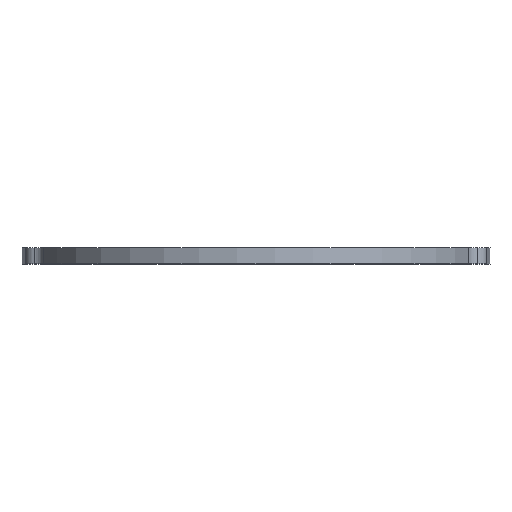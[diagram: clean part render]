
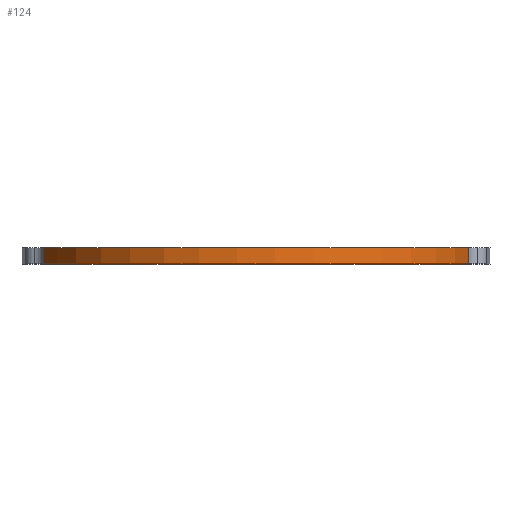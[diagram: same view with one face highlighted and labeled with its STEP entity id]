
A CAD part, top view. The second image highlights one B-rep face of the part: STEP entity #124.
In plain terms, the highlighted cylindrical face has radius 82.55 mm (diameter 165.1 mm), a partial arc.
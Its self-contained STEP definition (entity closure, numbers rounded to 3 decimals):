
#57 = CARTESIAN_POINT ( 'NONE',  ( 79.416, 6., 22.531 ) ) ;
#77 = CYLINDRICAL_SURFACE ( 'NONE', #1698, 82.55 ) ;
#78 = DIRECTION ( 'NONE',  ( 0., 1., 0. ) ) ;
#124 = ADVANCED_FACE ( 'NONE', ( #319 ), #77, .T. ) ;
#143 = DIRECTION ( 'NONE',  ( 0., 0., -1. ) ) ;
#238 = AXIS2_PLACEMENT_3D ( 'NONE', #669, #2186, #143 ) ;
#298 = CARTESIAN_POINT ( 'NONE',  ( 0., 6., 0. ) ) ;
#319 = FACE_OUTER_BOUND ( 'NONE', #1580, .T. ) ;
#357 = CARTESIAN_POINT ( 'NONE',  ( 79.416, 6., 22.531 ) ) ;
#361 = EDGE_CURVE ( 'NONE', #1733, #2290, #1306, .T. ) ;
#383 = DIRECTION ( 'NONE',  ( 0., 0., -1. ) ) ;
#394 = DIRECTION ( 'NONE',  ( 0., 0., -1. ) ) ;
#443 = CARTESIAN_POINT ( 'NONE',  ( -79.416, 0., 22.531 ) ) ;
#501 = EDGE_CURVE ( 'NONE', #727, #1733, #1984, .T. ) ;
#592 = CARTESIAN_POINT ( 'NONE',  ( -79.416, 6., 22.531 ) ) ;
#613 = LINE ( 'NONE', #592, #1439 ) ;
#650 = AXIS2_PLACEMENT_3D ( 'NONE', #298, #78, #383 ) ;
#669 = CARTESIAN_POINT ( 'NONE',  ( 0., 0., 0. ) ) ;
#672 = ORIENTED_EDGE ( 'NONE', *, *, #361, .T. ) ;
#727 = VERTEX_POINT ( 'NONE', #443 ) ;
#911 = CIRCLE ( 'NONE', #650, 82.55 ) ;
#964 = DIRECTION ( 'NONE',  ( 0., 1., 0. ) ) ;
#980 = DIRECTION ( 'NONE',  ( 0., -1., 0. ) ) ;
#1171 = ORIENTED_EDGE ( 'NONE', *, *, #1685, .F. ) ;
#1245 = VECTOR ( 'NONE', #964, 1000. ) ;
#1291 = DIRECTION ( 'NONE',  ( 0., -1., 0. ) ) ;
#1306 = LINE ( 'NONE', #57, #1245 ) ;
#1439 = VECTOR ( 'NONE', #980, 1000. ) ;
#1473 = CARTESIAN_POINT ( 'NONE',  ( 0., 6., 0. ) ) ;
#1580 = EDGE_LOOP ( 'NONE', ( #2279, #672, #1171, #1720 ) ) ;
#1685 = EDGE_CURVE ( 'NONE', #1777, #2290, #911, .T. ) ;
#1698 = AXIS2_PLACEMENT_3D ( 'NONE', #1473, #1291, #394 ) ;
#1720 = ORIENTED_EDGE ( 'NONE', *, *, #1841, .T. ) ;
#1733 = VERTEX_POINT ( 'NONE', #2242 ) ;
#1777 = VERTEX_POINT ( 'NONE', #1860 ) ;
#1841 = EDGE_CURVE ( 'NONE', #1777, #727, #613, .T. ) ;
#1860 = CARTESIAN_POINT ( 'NONE',  ( -79.416, 6., 22.531 ) ) ;
#1984 = CIRCLE ( 'NONE', #238, 82.55 ) ;
#2186 = DIRECTION ( 'NONE',  ( 0., 1., 0. ) ) ;
#2242 = CARTESIAN_POINT ( 'NONE',  ( 79.416, 0., 22.531 ) ) ;
#2279 = ORIENTED_EDGE ( 'NONE', *, *, #501, .T. ) ;
#2290 = VERTEX_POINT ( 'NONE', #357 ) ;
